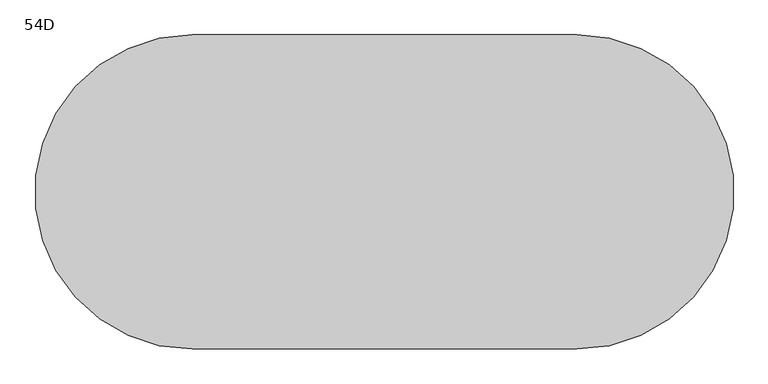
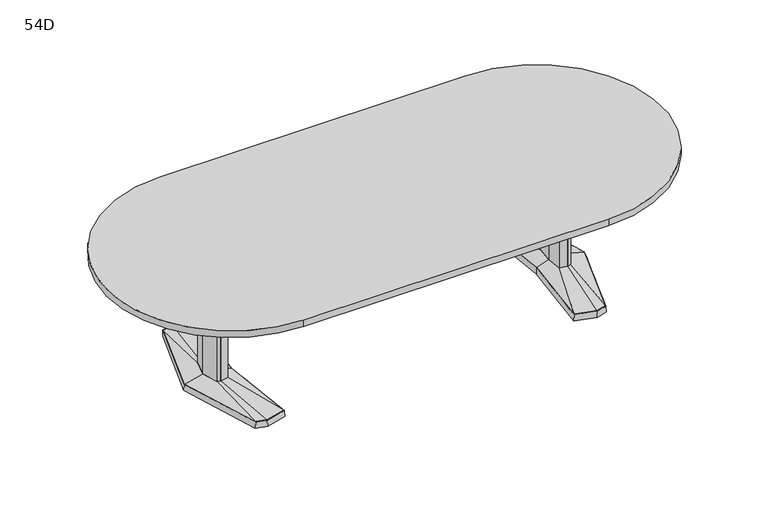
"""IFC4 building model written with IfcOpenShell, lengths in millimetres: furniture geometry, Coalesse_AM_Table_Conference_ETable2_Racetrack_10ft_AluminiumBase : 54D."""

from ifc_helpers import new_model, si_unit, point, frame, frame_2d, origin, place, context, project, spatial, polyline, circle_curve, trimmed, segment, composite_curve, outline, extrude, faceted_brep, source, transform, mapped, element, save
from ifc_brep_helpers import plane_surface, spline_surface, advanced_brep


def furniture_54d_cfa33f54(model_context):
    return source(origin(), model_context, "Body", "SolidModel", [
        faceted_brep([(905.8306835, 455.5848221, 38.1), (796.2531277, 426.2263816, 38.1), (837.4163717, 0.0, 38.1), (796.2531277, -426.2263816, 38.1), (905.8306835, -455.5848221, 38.1), (961.9570396, -440.5478297, 38.1), (1099.2684269, 0.0, 38.1), (961.9570396, 440.5478297, 38.1), (905.8306754, 457.2283104, 3.175), (963.2124472, 441.8549756, 3.175), (1100.93125, 0.0, 3.175), (963.2124472, -441.8549756, 3.175), (905.8306754, -457.2283104, 3.175), (794.54375, -427.4118891, 3.175), (835.8214856, 0.0, 3.175), (794.54375, 427.4118891, 3.175), (909.420115, 428.3273875, 3.175), (804.3718228, 402.1057253, 3.175), (812.490518, 377.985069, 3.175), (913.0095466, 401.0699529, 3.175), (963.5691725, 387.524361, 3.175), (962.7631061, 414.0360954, 3.175), (909.420115, -428.3273875, 3.175), (962.7631061, -414.0360954, 3.175), (963.5691725, -387.524361, 3.175), (913.0095466, -401.0699529, 3.175), (812.490518, -377.985069, 3.175), (804.3718228, -402.1057253, 3.175), (1036.0153621, 0.0, 3.175), (1003.7459611, 120.4193755, 3.175), (955.0987222, 133.471665, 3.175), (875.2180526, 119.4176561, 3.175), (864.0868466, 0.0, 3.175), (875.2180526, -119.4176561, 3.175), (955.0987222, -133.471665, 3.175), (1003.7459611, -120.4193755, 3.175), (909.420115, 428.3273875, 0.0), (962.7631061, 414.0360954, 0.0), (963.5691725, 387.524361, 0.0), (913.0095466, 401.0699529, 0.0), (812.490518, 377.985069, 0.0), (804.3718228, 402.1057253, 0.0), (909.420115, -428.3273875, 0.0), (804.3718228, -402.1057253, 0.0), (812.490518, -377.985069, 0.0), (913.0095466, -401.0699529, 0.0), (963.5691725, -387.524361, 0.0), (962.7631061, -414.0360954, 0.0), (1036.0153621, 0.0, 0.0), (1003.7459611, -120.4193755, 0.0), (955.0987222, -133.471665, 0.0), (875.2180526, -119.4176561, 0.0), (864.0868466, 0.0, 0.0), (875.2180526, 119.4176561, 0.0), (955.0987222, 133.471665, 0.0), (1003.7459611, 120.4193755, 0.0)], [[[0, 1, 2, 3, 4, 5, 6, 7]], [[8, 9, 10, 11, 12, 13, 14, 15], [16, 17, 18, 19, 20, 21], [22, 23, 24, 25, 26, 27], [28, 29, 30, 31, 32, 33, 34, 35]], [[7, 9, 8, 0]], [[6, 10, 9, 7]], [[5, 11, 10, 6]], [[4, 12, 11, 5]], [[3, 13, 12, 4]], [[2, 14, 13, 3]], [[1, 15, 14, 2]], [[0, 8, 15, 1]], [[36, 37, 38, 39, 40, 41]], [[42, 43, 44, 45, 46, 47]], [[48, 49, 50, 51, 52, 53, 54, 55]], [[36, 16, 21, 37]], [[37, 21, 20, 38]], [[38, 20, 19, 39]], [[39, 19, 18, 40]], [[40, 18, 17, 41]], [[41, 17, 16, 36]], [[42, 22, 27, 43]], [[43, 27, 26, 44]], [[44, 26, 25, 45]], [[45, 25, 24, 46]], [[46, 24, 23, 47]], [[47, 23, 22, 42]], [[48, 28, 35, 49]], [[49, 35, 34, 50]], [[50, 34, 33, 51]], [[51, 33, 32, 52]], [[52, 32, 31, 53]], [[53, 31, 30, 54]], [[54, 30, 29, 55]], [[55, 29, 28, 48]]]),
        faceted_brep([(996.5710836, 0.0, 698.5), (972.6358546, 89.3188359, 698.5), (955.7824984, 93.8406728, 698.5), (953.3826511, 94.4845635, 698.5), (910.455146, 86.9320037, 698.5), (902.3520056, 0.0, 698.5), (910.455146, -86.9320037, 698.5), (953.3826511, -94.4845635, 698.5), (955.7824984, -93.8406728, 698.5), (972.6358546, -89.3188359, 698.5), (996.5710836, 0.0, 63.5), (972.6358546, -89.3188359, 63.5), (955.7824984, -93.8406728, 63.5), (953.3826511, -94.4845635, 63.5), (910.455146, -86.9320037, 63.5), (902.3520056, 0.0, 63.5), (910.455146, 86.9320037, 63.5), (953.3826511, 94.4845635, 63.5), (955.7824984, 93.8406728, 63.5), (972.6358546, 89.3188359, 63.5)], [[[0, 1, 2, 3, 4, 5, 6, 7, 8, 9]], [[10, 11, 12, 13, 14, 15, 16, 17, 18, 19]], [[9, 11, 10, 0]], [[8, 12, 11, 9]], [[7, 13, 12, 8]], [[6, 14, 13, 7]], [[5, 15, 14, 6]], [[4, 16, 15, 5]], [[3, 17, 16, 4]], [[2, 18, 17, 3]], [[1, 19, 18, 2]], [[0, 10, 19, 1]]]),
        advanced_brep(
        [(953.3826511, 94.4845635, 63.5), (910.455146, 86.9320037, 63.5), (902.3520056, 0.0, 63.5), (910.455146, -86.9320037, 63.5), (953.3826511, -94.4845635, 63.5), (972.6358546, -89.3188359, 63.5), (996.5710836, 0.0, 63.5), (972.6358546, 89.3188359, 63.5), (905.8306835, 455.5848221, 38.1), (961.9570396, 440.5478297, 38.1), (1099.2684269, 0.0, 38.1), (961.9570396, -440.5478297, 38.1), (905.8306835, -455.5848221, 38.1), (796.2531277, -426.2263816, 38.1), (837.4163717, 0.0, 38.1), (796.2531277, 426.2263816, 38.1)],
        [
            (0, 1),
            (1, 2),
            (2, 3),
            (3, 4),
            (4, 5),
            (5, 6),
            (6, 7),
            (7, 0),
            (8, 9),
            (9, 10),
            (10, 11),
            (11, 12),
            (12, 13),
            (13, 14),
            (14, 15),
            (15, 8),
            (8, 0),
            (7, 9),
            (6, 10),
            (5, 11),
            (4, 12),
            (3, 13),
            (2, 14),
            (1, 15),
        ],
        [
            plane_surface(frame((946.4837991, 0.0, 63.5), z_axis=(0.0, 0.0, 1.0), x_axis=(-0.25884244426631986, -0.9659195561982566, 0.0))),
            plane_surface(frame((908.0958125, 0.0, 38.1), z_axis=(0.0, 0.0, -1.0), x_axis=(-0.25884244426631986, -0.9659195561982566, 0.0))),
            spline_surface(1, 1, [[(905.8306835, 455.5848221, 38.1), (961.9570396, 440.5478297, 38.1)], [(953.3826511, 94.4845635, 63.5), (972.6358546, 89.3188359, 63.5)]], [2, 2], [2, 2], [0.0, 1.0], [0.0, 1.0]),
            spline_surface(1, 1, [[(961.9570396, 440.5478297, 38.1), (1099.2684269, 0.0, 38.1)], [(972.6358546, 89.3188359, 63.5), (996.5710836, 0.0, 63.5)]], [2, 2], [2, 2], [0.0, 1.0], [0.0, 1.0]),
            spline_surface(1, 1, [[(1099.2684269, 0.0, 38.1), (961.9570396, -440.5478297, 38.1)], [(996.5710836, 0.0, 63.5), (972.6358546, -89.3188359, 63.5)]], [2, 2], [2, 2], [0.0, 1.0], [0.0, 1.0]),
            spline_surface(1, 1, [[(961.9570396, -440.5478297, 38.1), (905.8306835, -455.5848221, 38.1)], [(972.6358546, -89.3188359, 63.5), (953.3826511, -94.4845635, 63.5)]], [2, 2], [2, 2], [0.0, 1.0], [0.0, 1.0]),
            spline_surface(1, 1, [[(905.8306835, -455.5848221, 38.1), (796.2531277, -426.2263816, 38.1)], [(953.3826511, -94.4845635, 63.5), (910.455146, -86.9320037, 63.5)]], [2, 2], [2, 2], [0.0, 1.0], [0.0, 1.0]),
            spline_surface(1, 1, [[(796.2531277, -426.2263816, 38.1), (837.4163717, 0.0, 38.1)], [(910.455146, -86.9320037, 63.5), (902.3520056, 0.0, 63.5)]], [2, 2], [2, 2], [0.0, 1.0], [0.0, 1.0]),
            spline_surface(1, 1, [[(837.4163717, 0.0, 38.1), (796.2531277, 426.2263816, 38.1)], [(902.3520056, 0.0, 63.5), (910.455146, 86.9320037, 63.5)]], [2, 2], [2, 2], [0.0, 1.0], [0.0, 1.0]),
            spline_surface(1, 1, [[(796.2531277, 426.2263816, 38.1), (905.8306835, 455.5848221, 38.1)], [(910.455146, 86.9320037, 63.5), (953.3826511, 94.4845635, 63.5)]], [2, 2], [2, 2], [0.0, 1.0], [0.0, 1.0]),
        ],
        [
            (0, [[1, 2, 3, 4, 5, 6, 7, 8]]),
            (1, [[9, 10, 11, 12, 13, 14, 15, 16]]),
            (2, [[17, -8, 18, -9]]),
            (3, [[-18, -7, 19, -10]]),
            (4, [[-19, -6, 20, -11]]),
            (5, [[-20, -5, 21, -12]]),
            (6, [[-21, -4, 22, -13]]),
            (7, [[-22, -3, 23, -14]]),
            (8, [[-23, -2, 24, -15]]),
            (9, [[-24, -1, -17, -16]]),
        ],
    ),
        faceted_brep([(-905.8306835, 455.5848221, 38.1), (-961.9570396, 440.5478297, 38.1), (-1099.2684269, 0.0, 38.1), (-961.9570396, -440.5478297, 38.1), (-905.8306835, -455.5848221, 38.1), (-796.2531277, -426.2263816, 38.1), (-837.4163717, 0.0, 38.1), (-796.2531277, 426.2263816, 38.1), (-905.8306754, 457.2283104, 3.175), (-794.54375, 427.4118891, 3.175), (-835.8214856, 0.0, 3.175), (-794.54375, -427.4118891, 3.175), (-905.8306754, -457.2283104, 3.175), (-963.2124472, -441.8549756, 3.175), (-1100.93125, 0.0, 3.175), (-963.2124472, 441.8549756, 3.175), (-909.420115, 428.3273875, 3.175), (-962.7631061, 414.0360954, 3.175), (-963.5691725, 387.524361, 3.175), (-913.0095466, 401.0699529, 3.175), (-812.490518, 377.985069, 3.175), (-804.3718228, 402.1057253, 3.175), (-909.420115, -428.3273875, 3.175), (-804.3718228, -402.1057253, 3.175), (-812.490518, -377.985069, 3.175), (-913.0095466, -401.0699529, 3.175), (-963.5691725, -387.524361, 3.175), (-962.7631061, -414.0360954, 3.175), (-1036.0153621, 0.0, 3.175), (-1003.7459611, -120.4193755, 3.175), (-955.0987222, -133.471665, 3.175), (-875.2180526, -119.4176561, 3.175), (-864.0868466, 0.0, 3.175), (-875.2180526, 119.4176561, 3.175), (-955.0987222, 133.471665, 3.175), (-1003.7459611, 120.4193755, 3.175), (-909.420115, 428.3273875, 0.0), (-804.3718228, 402.1057253, 0.0), (-812.490518, 377.985069, 0.0), (-913.0095466, 401.0699529, 0.0), (-963.5691725, 387.524361, 0.0), (-962.7631061, 414.0360954, 0.0), (-909.420115, -428.3273875, 0.0), (-962.7631061, -414.0360954, 0.0), (-963.5691725, -387.524361, 0.0), (-913.0095466, -401.0699529, 0.0), (-812.490518, -377.985069, 0.0), (-804.3718228, -402.1057253, 0.0), (-1036.0153621, 0.0, 0.0), (-1003.7459611, 120.4193755, 0.0), (-955.0987222, 133.471665, 0.0), (-875.2180526, 119.4176561, 0.0), (-864.0868466, 0.0, 0.0), (-875.2180526, -119.4176561, 0.0), (-955.0987222, -133.471665, 0.0), (-1003.7459611, -120.4193755, 0.0)], [[[0, 1, 2, 3, 4, 5, 6, 7]], [[8, 9, 10, 11, 12, 13, 14, 15], [16, 17, 18, 19, 20, 21], [22, 23, 24, 25, 26, 27], [28, 29, 30, 31, 32, 33, 34, 35]], [[1, 0, 8, 15]], [[2, 1, 15, 14]], [[3, 2, 14, 13]], [[4, 3, 13, 12]], [[5, 4, 12, 11]], [[6, 5, 11, 10]], [[7, 6, 10, 9]], [[0, 7, 9, 8]], [[36, 37, 38, 39, 40, 41]], [[42, 43, 44, 45, 46, 47]], [[48, 49, 50, 51, 52, 53, 54, 55]], [[36, 41, 17, 16]], [[41, 40, 18, 17]], [[40, 39, 19, 18]], [[39, 38, 20, 19]], [[38, 37, 21, 20]], [[37, 36, 16, 21]], [[42, 47, 23, 22]], [[47, 46, 24, 23]], [[46, 45, 25, 24]], [[45, 44, 26, 25]], [[44, 43, 27, 26]], [[43, 42, 22, 27]], [[48, 55, 29, 28]], [[55, 54, 30, 29]], [[54, 53, 31, 30]], [[53, 52, 32, 31]], [[52, 51, 33, 32]], [[51, 50, 34, 33]], [[50, 49, 35, 34]], [[49, 48, 28, 35]]]),
        faceted_brep([(-996.5710836, 0.0, 698.5), (-972.6358546, -89.3188359, 698.5), (-955.7824984, -93.8406728, 698.5), (-953.3826511, -94.4845635, 698.5), (-910.455146, -86.9320037, 698.5), (-902.3520056, 0.0, 698.5), (-910.455146, 86.9320037, 698.5), (-953.3826511, 94.4845635, 698.5), (-955.7824984, 93.8406728, 698.5), (-972.6358546, 89.3188359, 698.5), (-996.5710836, 0.0, 63.5), (-972.6358546, 89.3188359, 63.5), (-955.7824984, 93.8406728, 63.5), (-953.3826511, 94.4845635, 63.5), (-910.455146, 86.9320037, 63.5), (-902.3520056, 0.0, 63.5), (-910.455146, -86.9320037, 63.5), (-953.3826511, -94.4845635, 63.5), (-955.7824984, -93.8406728, 63.5), (-972.6358546, -89.3188359, 63.5)], [[[0, 1, 2, 3, 4, 5, 6, 7, 8, 9]], [[10, 11, 12, 13, 14, 15, 16, 17, 18, 19]], [[1, 0, 10, 19]], [[2, 1, 19, 18]], [[3, 2, 18, 17]], [[4, 3, 17, 16]], [[5, 4, 16, 15]], [[6, 5, 15, 14]], [[7, 6, 14, 13]], [[8, 7, 13, 12]], [[9, 8, 12, 11]], [[0, 9, 11, 10]]]),
        advanced_brep(
        [(-953.3826511, 94.4845635, 63.5), (-972.6358546, 89.3188359, 63.5), (-996.5710836, 0.0, 63.5), (-972.6358546, -89.3188359, 63.5), (-953.3826511, -94.4845635, 63.5), (-910.455146, -86.9320037, 63.5), (-902.3520056, 0.0, 63.5), (-910.455146, 86.9320037, 63.5), (-905.8306835, 455.5848221, 38.1), (-796.2531277, 426.2263816, 38.1), (-837.4163717, 0.0, 38.1), (-796.2531277, -426.2263816, 38.1), (-905.8306835, -455.5848221, 38.1), (-961.9570396, -440.5478297, 38.1), (-1099.2684269, 0.0, 38.1), (-961.9570396, 440.5478297, 38.1)],
        [
            (0, 1),
            (1, 2),
            (2, 3),
            (3, 4),
            (4, 5),
            (5, 6),
            (6, 7),
            (7, 0),
            (8, 9),
            (9, 10),
            (10, 11),
            (11, 12),
            (12, 13),
            (13, 14),
            (14, 15),
            (15, 8),
            (15, 1),
            (0, 8),
            (14, 2),
            (13, 3),
            (12, 4),
            (11, 5),
            (10, 6),
            (9, 7),
        ],
        [
            plane_surface(frame((-946.4837991, 0.0, 63.5), z_axis=(0.0, 0.0, 1.0), x_axis=(0.25884244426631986, -0.9659195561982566, 0.0))),
            plane_surface(frame((-908.0958125, 0.0, 38.1), z_axis=(0.0, 0.0, -1.0), x_axis=(0.25884244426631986, -0.9659195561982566, 0.0))),
            spline_surface(1, 1, [[(-905.8306835, 455.5848221, 38.1), (-953.3826511, 94.4845635, 63.5)], [(-961.9570396, 440.5478297, 38.1), (-972.6358546, 89.3188359, 63.5)]], [2, 2], [2, 2], [0.0, 1.0], [0.0, 1.0]),
            spline_surface(1, 1, [[(-961.9570396, 440.5478297, 38.1), (-972.6358546, 89.3188359, 63.5)], [(-1099.2684269, 0.0, 38.1), (-996.5710836, 0.0, 63.5)]], [2, 2], [2, 2], [0.0, 1.0], [0.0, 1.0]),
            spline_surface(1, 1, [[(-1099.2684269, 0.0, 38.1), (-996.5710836, 0.0, 63.5)], [(-961.9570396, -440.5478297, 38.1), (-972.6358546, -89.3188359, 63.5)]], [2, 2], [2, 2], [0.0, 1.0], [0.0, 1.0]),
            spline_surface(1, 1, [[(-961.9570396, -440.5478297, 38.1), (-972.6358546, -89.3188359, 63.5)], [(-905.8306835, -455.5848221, 38.1), (-953.3826511, -94.4845635, 63.5)]], [2, 2], [2, 2], [0.0, 1.0], [0.0, 1.0]),
            spline_surface(1, 1, [[(-905.8306835, -455.5848221, 38.1), (-953.3826511, -94.4845635, 63.5)], [(-796.2531277, -426.2263816, 38.1), (-910.455146, -86.9320037, 63.5)]], [2, 2], [2, 2], [0.0, 1.0], [0.0, 1.0]),
            spline_surface(1, 1, [[(-796.2531277, -426.2263816, 38.1), (-910.455146, -86.9320037, 63.5)], [(-837.4163717, 0.0, 38.1), (-902.3520056, 0.0, 63.5)]], [2, 2], [2, 2], [0.0, 1.0], [0.0, 1.0]),
            spline_surface(1, 1, [[(-837.4163717, 0.0, 38.1), (-902.3520056, 0.0, 63.5)], [(-796.2531277, 426.2263816, 38.1), (-910.455146, 86.9320037, 63.5)]], [2, 2], [2, 2], [0.0, 1.0], [0.0, 1.0]),
            spline_surface(1, 1, [[(-796.2531277, 426.2263816, 38.1), (-910.455146, 86.9320037, 63.5)], [(-905.8306835, 455.5848221, 38.1), (-953.3826511, 94.4845635, 63.5)]], [2, 2], [2, 2], [0.0, 1.0], [0.0, 1.0]),
        ],
        [
            (0, [[1, 2, 3, 4, 5, 6, 7, 8]]),
            (1, [[9, 10, 11, 12, 13, 14, 15, 16]]),
            (2, [[-16, 17, -1, 18]]),
            (3, [[-15, 19, -2, -17]]),
            (4, [[-14, 20, -3, -19]]),
            (5, [[-13, 21, -4, -20]]),
            (6, [[-12, 22, -5, -21]]),
            (7, [[-11, 23, -6, -22]]),
            (8, [[-10, 24, -7, -23]]),
            (9, [[-9, -18, -8, -24]]),
        ],
    ),
        extrude(outline(polyline([(96.8375, 698.5), (103.1875, 698.5), (103.1875, 476.25), (-103.1875, 476.25), (-103.1875, 698.5), (-96.8375, 698.5), (-96.8375, 482.6), (96.8375, 482.6), (96.8375, 698.5)])), frame((-902.49375, 0.0, 0.0), z_axis=(1.0, 0.0, 0.0), x_axis=(0.0, 1.0, 0.0)), (0.0, 0.0, 1.0), 1804.9875),
        extrude(outline(composite_curve([segment(trimmed(circle_curve(frame_2d((-838.2, 0.0)), 685.8), [point((-838.2, -685.8))], [point((-838.2, 685.8))], False, "CARTESIAN"), True, "CONTINUOUS"), segment(polyline([(-838.2, 685.8), (838.2, 685.8)]), True, "CONTINUOUS"), segment(trimmed(circle_curve(frame_2d((838.2, 0.0)), 685.8), [point((838.2, 685.8))], [point((838.2, -685.8))], False, "CARTESIAN"), True, "CONTINUOUS"), segment(polyline([(838.2, -685.8), (-838.2, -685.8)]), True, "CONTINUOUS")], self_intersect=False)), frame((0.0, 0.0, 698.5), z_axis=(0.0, 0.0, 1.0), x_axis=(1.0, 0.0, 0.0)), (0.0, 0.0, 1.0), 38.1),
    ])


if __name__ == "__main__":
    model = new_model("IFC4")
    model_context = context("Model", 3, world=origin())
    ifc_project = project(units=[si_unit("LENGTHUNIT", "METRE", prefix="MILLI")], contexts=[model_context])
    site = spatial("IfcSite", under=ifc_project)
    building = spatial("IfcBuilding", under=site)
    placement = place(None, origin())
    furniture_54d_shape = furniture_54d_cfa33f54(model_context)
    element("IfcFurniture", 1, ObjectType="Coalesse_AM_Table_Conference_ETable2_Racetrack_10ft_AluminiumBase : 54D", at=placement, inside=building, context=model_context, shape_type="MappedRepresentation", body=[
        mapped(furniture_54d_shape, transform((0.0, 0.0, 0.0), x_axis=(1.0, 0.0, 0.0), y_axis=(0.0, 1.0, 0.0), z_axis=(0.0, 0.0, 1.0))),
    ])
    save(model, "model.ifc")
